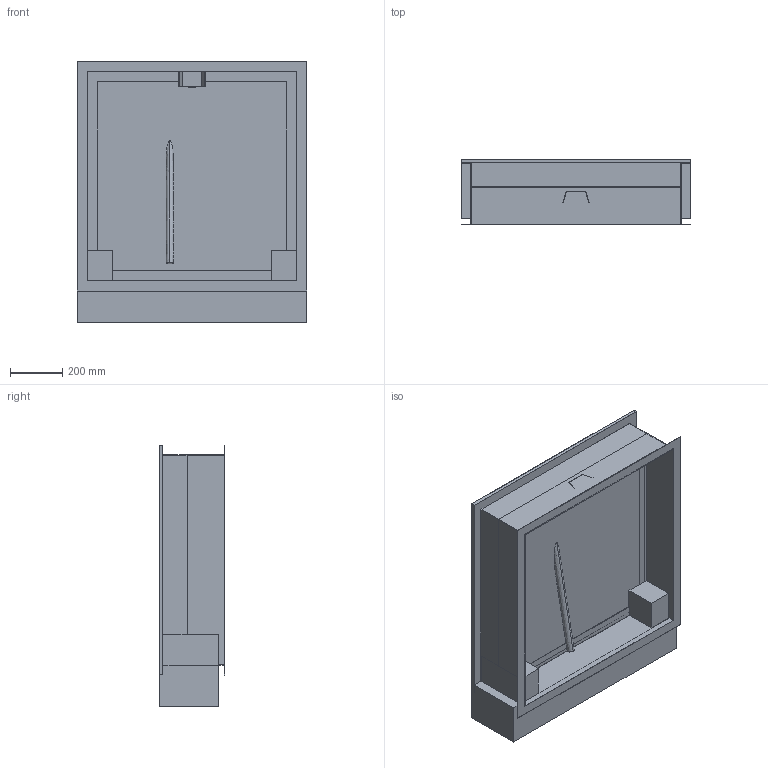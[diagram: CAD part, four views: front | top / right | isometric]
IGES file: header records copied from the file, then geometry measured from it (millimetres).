
Start section:  PTC IGES file: 51496072.igs
Global section: file name: 51496072.igs; native system: Creo Parametric by PTC Inc.; preprocessor: 2019224; author: slc; organization: Unknown; date: 20200616.105213; units: millimetre
Bounding box: 878 x 250 x 1000 mm (x, y, z)
Surface area: 4327198.4 mm2 (no closed solid volume)
Topology: 0 solids, 0 shells, 87 faces, 456 edges, 456 vertices
Faces by surface type: bspline 78, revolution 9
